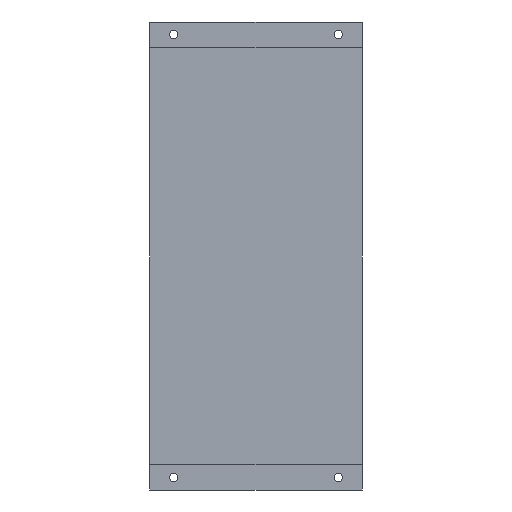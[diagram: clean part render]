
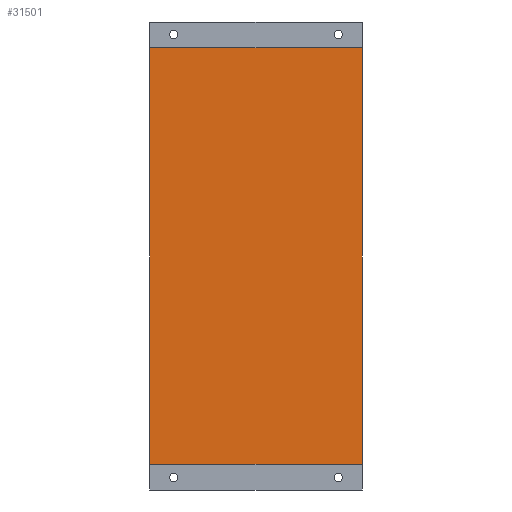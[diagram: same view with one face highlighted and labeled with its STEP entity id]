
A CAD part, front view. The second image highlights one B-rep face of the part: STEP entity #31501.
In plain terms, the highlighted planar face has unit normal (0, -1, 0).
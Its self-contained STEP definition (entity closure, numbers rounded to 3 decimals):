
#2154 = DIRECTION ( 'NONE',  ( 0., 0., -1. ) ) ;
#3472 = ORIENTED_EDGE ( 'NONE', *, *, #67041, .T. ) ;
#3732 = VECTOR ( 'NONE', #70486, 1000. ) ;
#4934 = VECTOR ( 'NONE', #2154, 1000. ) ;
#5298 = DIRECTION ( 'NONE',  ( 0., 1., 0. ) ) ;
#5915 = VERTEX_POINT ( 'NONE', #68881 ) ;
#5999 = VECTOR ( 'NONE', #63409, 1000. ) ;
#6218 = VECTOR ( 'NONE', #72548, 1000. ) ;
#6913 = ORIENTED_EDGE ( 'NONE', *, *, #60740, .F. ) ;
#7064 = EDGE_LOOP ( 'NONE', ( #14085, #6913, #19563, #3472 ) ) ;
#7844 = LINE ( 'NONE', #28346, #5999 ) ;
#8612 = VERTEX_POINT ( 'NONE', #71396 ) ;
#14085 = ORIENTED_EDGE ( 'NONE', *, *, #36541, .T. ) ;
#19563 = ORIENTED_EDGE ( 'NONE', *, *, #74886, .F. ) ;
#20732 = CARTESIAN_POINT ( 'NONE',  ( 0., 5., -188.797 ) ) ;
#21329 = FACE_OUTER_BOUND ( 'NONE', #7064, .T. ) ;
#22708 = PLANE ( 'NONE',  #64534 ) ;
#25001 = VERTEX_POINT ( 'NONE', #20732 ) ;
#28346 = CARTESIAN_POINT ( 'NONE',  ( 127., 5., -188.797 ) ) ;
#31501 = ADVANCED_FACE ( 'NONE', ( #21329 ), #22708, .F. ) ;
#35449 = VERTEX_POINT ( 'NONE', #57806 ) ;
#36541 = EDGE_CURVE ( 'NONE', #5915, #25001, #50449, .T. ) ;
#37174 = CARTESIAN_POINT ( 'NONE',  ( 127., 5., -188.797 ) ) ;
#39173 = LINE ( 'NONE', #54983, #6218 ) ;
#46259 = DIRECTION ( 'NONE',  ( 0., 0., 1. ) ) ;
#49815 = LINE ( 'NONE', #37174, #4934 ) ;
#50449 = LINE ( 'NONE', #58732, #3732 ) ;
#54983 = CARTESIAN_POINT ( 'NONE',  ( 127., 5., 60.203 ) ) ;
#57806 = CARTESIAN_POINT ( 'NONE',  ( 127., 5., -188.797 ) ) ;
#58732 = CARTESIAN_POINT ( 'NONE',  ( 0., 5., -188.797 ) ) ;
#60740 = EDGE_CURVE ( 'NONE', #35449, #25001, #7844, .T. ) ;
#63409 = DIRECTION ( 'NONE',  ( -1., 0., 0. ) ) ;
#63608 = CARTESIAN_POINT ( 'NONE',  ( 127., 5., -188.797 ) ) ;
#64534 = AXIS2_PLACEMENT_3D ( 'NONE', #63608, #5298, #46259 ) ;
#67041 = EDGE_CURVE ( 'NONE', #8612, #5915, #39173, .T. ) ;
#68881 = CARTESIAN_POINT ( 'NONE',  ( 0., 5., 60.203 ) ) ;
#70486 = DIRECTION ( 'NONE',  ( 0., 0., -1. ) ) ;
#71396 = CARTESIAN_POINT ( 'NONE',  ( 127., 5., 60.203 ) ) ;
#72548 = DIRECTION ( 'NONE',  ( -1., 0., 0. ) ) ;
#74886 = EDGE_CURVE ( 'NONE', #8612, #35449, #49815, .T. ) ;
